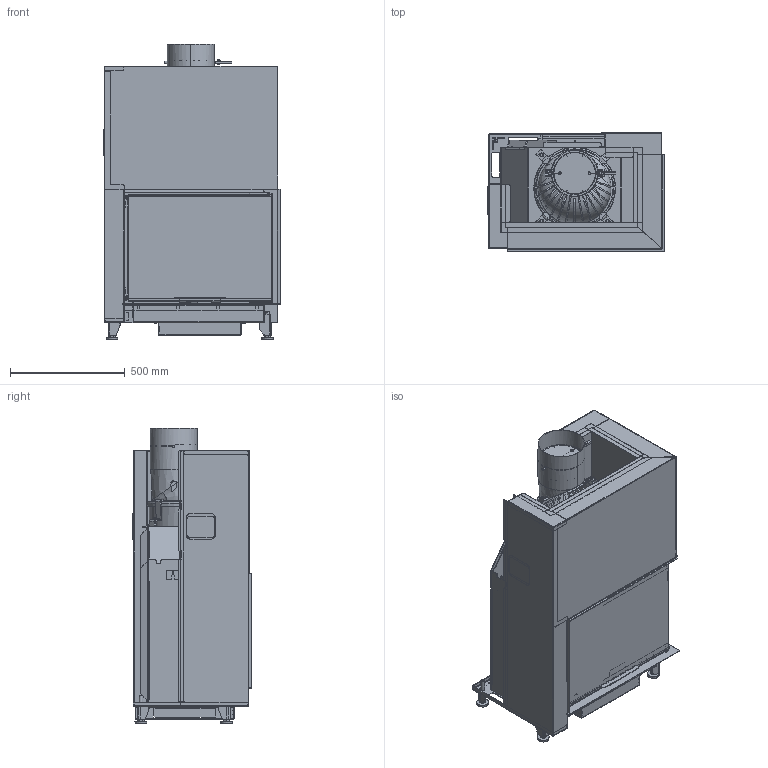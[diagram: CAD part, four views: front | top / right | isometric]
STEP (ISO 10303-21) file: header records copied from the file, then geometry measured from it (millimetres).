
FILE_DESCRIPTION(/* description */ (''),/* implementation_level */ '2;1');
FILE_NAME(/* name */ 'C:\ADSK_DM_WS\CAD_3D\03 Geraete\RII 50x68x42\Zeichnungen\RII_50x68x42_Rechts_ohne_Mantel_Oben_Gen2_2022-03244.stp',/* time_stamp */ '2022-08-05T11:33:15+02:00',/* author */ ('TIS'),/* organization */ (''),/* preprocessor_version */ 'ST-DEVELOPER v18.1',/* originating_system */ 'Autodesk Inventor 2022',/* authorisation */ '');
FILE_SCHEMA (('AUTOMOTIVE_DESIGN { 1 0 10303 214 3 1 1 }'));
Products named in the file (7): 2022-03244; 2022-03240; 2022-03239; 2022-03238; 2022-03237; 2022-03236; 2022-03234
Assembly tree (6 placements, depth 2):
  2022-03244
    2022-03240
    2022-03239
    2022-03238
    2022-03237
    2022-03236
    2022-03234
Bounding box: 768.9 x 516.5 x 1288.56 mm (x, y, z)
Volume: 39261055.9 mm3; surface area: 15423930.9 mm2
Topology: 16 solids, 27 shells, 7951 faces, 21365 edges, 13313 vertices
Faces by surface type: plane 4629, cylinder 2864, bspline 227, cone 168, torus 62, sphere 1
Full cylindrical faces by diameter (mm): 3.242 x6, 4.5 x4, 4.8 x11, 6 x5, 7.9 x1, 8 x8, 9 x3, 9.5 x10, 10 x3, 11.192 x3, 11.4 x6, 12 x2, 16 x14, 30 x4, 163 x1, 333 x1, 339 x1
Entity records: 264595 total; most frequent: CARTESIAN_POINT 54679, ORIENTED_EDGE 42640, DIRECTION 42096, EDGE_CURVE 21373, AXIS2_PLACEMENT_3D 14070, LINE 13956, VECTOR 13956, VERTEX_POINT 13315
